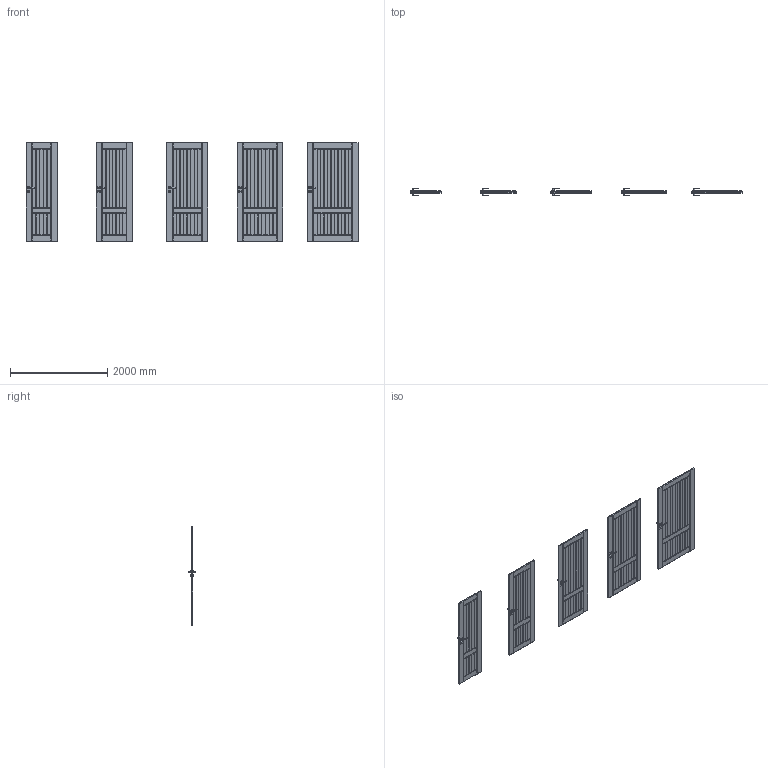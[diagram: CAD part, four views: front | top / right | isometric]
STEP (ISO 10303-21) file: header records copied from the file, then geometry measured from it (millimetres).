
FILE_DESCRIPTION(/* description */ (''),/* implementation_level */ '2;1');
FILE_NAME(/* name */ '049857_A_2-Skrzydło OSLO model 2_ polska norma _PN__ odwrotna przylga..stp',/* time_stamp */ '2024-09-04T09:05:23+02:00',/* author */ (''),/* organization */ (''),/* preprocessor_version */ 'ST-DEVELOPER v16',/* originating_system */ 'SIEMENS PLM Software NX 11.0',/* authorisation */ '');
FILE_SCHEMA (('AUTOMOTIVE_DESIGN { 1 0 10303 214 3 1 1 1 }'));
Products named in the file (1): bkni50780D449z3h
Bounding box: 6839 x 153.13 x 2027 mm (x, y, z)
Volume: 330610242.2 mm3; surface area: 18492886.5 mm2
Topology: 25 solids, 25 shells, 4090 faces, 10710 edges, 6600 vertices
Faces by surface type: plane 1770, cylinder 1460, torus 280, cone 280, bspline 160, sphere 140
Entity records: 140316 total; most frequent: CARTESIAN_POINT 41928, ORIENTED_EDGE 21140, DIRECTION 20052, EDGE_CURVE 10570, AXIS2_PLACEMENT_3D 7251, VERTEX_POINT 6600, LINE 5550, VECTOR 5550
